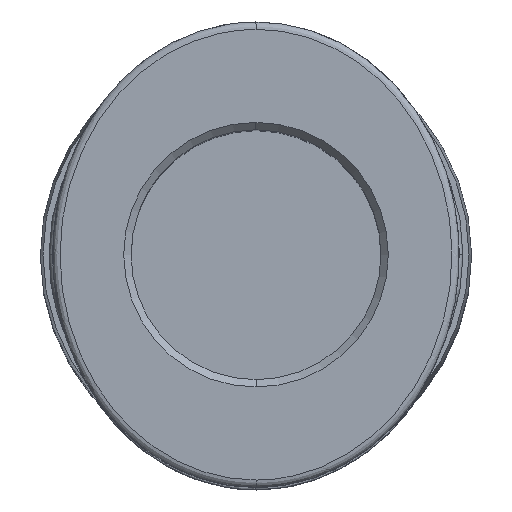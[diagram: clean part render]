
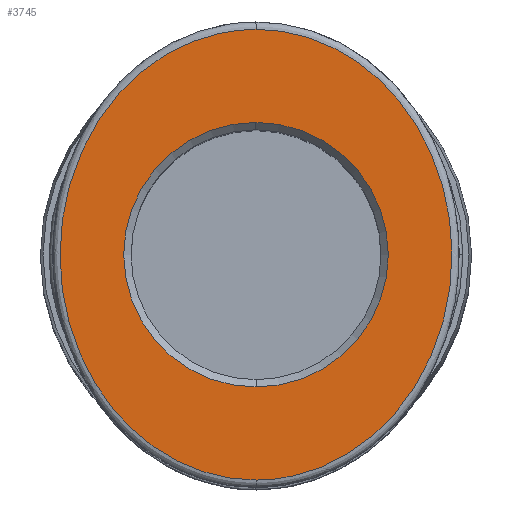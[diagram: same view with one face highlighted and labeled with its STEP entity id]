
A CAD part, top view. The second image highlights one B-rep face of the part: STEP entity #3745.
In plain terms, the highlighted planar face has unit normal (0, 0, 1).
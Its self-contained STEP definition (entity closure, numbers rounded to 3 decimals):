
#912=CARTESIAN_POINT('',(0.,9.199,30.3));
#920=CARTESIAN_POINT('',(0.,9.199,30.3));
#921=CARTESIAN_POINT('',(0.419,9.202,30.3));
#922=CARTESIAN_POINT('',(1.258,9.124,30.3));
#923=CARTESIAN_POINT('',(2.544,8.76,30.3));
#924=CARTESIAN_POINT('',(3.769,8.158,30.3));
#925=CARTESIAN_POINT('',(4.898,7.324,30.3));
#926=CARTESIAN_POINT('',(5.82,6.366,30.3));
#927=CARTESIAN_POINT('',(6.666,5.165,30.3));
#928=CARTESIAN_POINT('',(7.361,3.727,30.3));
#929=CARTESIAN_POINT('',(7.82,2.16,30.3));
#930=CARTESIAN_POINT('',(8.03,0.561,30.3));
#931=CARTESIAN_POINT('',(7.981,-1.154,30.3));
#932=CARTESIAN_POINT('',(7.677,-2.786,30.3));
#933=CARTESIAN_POINT('',(7.032,-4.524,30.3));
#934=CARTESIAN_POINT('',(6.133,-5.983,30.3));
#935=CARTESIAN_POINT('',(5.111,-7.137,30.3));
#936=CARTESIAN_POINT('',(3.911,-8.084,30.3));
#937=CARTESIAN_POINT('',(2.628,-8.737,30.3));
#938=CARTESIAN_POINT('',(1.295,-9.118,30.3));
#939=CARTESIAN_POINT('',(0.434,-9.202,30.3));
#940=CARTESIAN_POINT('',(0.005,-9.2,30.3));
#942=CARTESIAN_POINT('',(0.005,-9.2,30.3));
#943=CARTESIAN_POINT('',(-0.427,-9.201,30.3));
#944=CARTESIAN_POINT('',(-1.283,-9.121,30.3));
#945=CARTESIAN_POINT('',(-2.575,-8.755,30.3));
#946=CARTESIAN_POINT('',(-3.789,-8.149,30.3));
#947=CARTESIAN_POINT('',(-4.911,-7.311,30.3));
#948=CARTESIAN_POINT('',(-5.838,-6.343,30.3));
#949=CARTESIAN_POINT('',(-6.684,-5.138,30.3));
#950=CARTESIAN_POINT('',(-7.373,-3.695,30.3));
#951=CARTESIAN_POINT('',(-7.829,-2.109,30.3));
#952=CARTESIAN_POINT('',(-8.034,-0.492,
30.3));
#953=CARTESIAN_POINT('',(-7.972,1.227,30.3));
#954=CARTESIAN_POINT('',(-7.657,2.857,30.3));
#955=CARTESIAN_POINT('',(-6.997,4.59,30.3));
#956=CARTESIAN_POINT('',(-6.099,6.026,30.3));
#957=CARTESIAN_POINT('',(-5.093,7.155,30.3));
#958=CARTESIAN_POINT('',(-3.899,8.091,30.3));
#959=CARTESIAN_POINT('',(-2.628,8.732,30.3));
#960=CARTESIAN_POINT('',(-1.309,9.114,30.3));
#961=CARTESIAN_POINT('',(-0.437,9.199,30.3));
#962=CARTESIAN_POINT('',(0.,9.199,30.3));
#964=CARTESIAN_POINT('',(0.,0.,30.3));
#965=DIRECTION('',(0.,0.,1.));
#966=DIRECTION('',(0.001,-1.,0.));
#967=AXIS2_PLACEMENT_3D('',#964,#965,#966);
#969=CARTESIAN_POINT('',(0.,0.,30.3));
#970=DIRECTION('',(0.,0.,1.));
#971=DIRECTION('',(-0.001,1.,0.));
#972=AXIS2_PLACEMENT_3D('',#969,#970,#971);
#1133=VERTEX_POINT('',#912);
#1134=VERTEX_POINT('',#942);
#1135=CARTESIAN_POINT('',(0.003,-5.4,30.3));
#1136=CARTESIAN_POINT('',(-0.003,5.4,30.3));
#1137=VERTEX_POINT('',#1135);
#1138=VERTEX_POINT('',#1136);
#3730=CARTESIAN_POINT('',(0.006,-9.5,30.3));
#3731=DIRECTION('',(0.,0.,-1.));
#3732=DIRECTION('',(1.,0.001,0.));
#3733=AXIS2_PLACEMENT_3D('',#3730,#3731,#3732);
#3734=PLANE('',#3733);
#3735=ORIENTED_EDGE('',*,*,#3724,.T.);
#3736=ORIENTED_EDGE('',*,*,#3519,.T.);
#3737=EDGE_LOOP('',(#3735,#3736));
#3738=FACE_OUTER_BOUND('',#3737,.F.);
#3740=ORIENTED_EDGE('',*,*,#3739,.T.);
#3742=ORIENTED_EDGE('',*,*,#3741,.T.);
#3743=EDGE_LOOP('',(#3740,#3742));
#3744=FACE_BOUND('',#3743,.F.);
#3745=ADVANCED_FACE('',(#3738,#3744),#3734,.F.);
#941=B_SPLINE_CURVE_WITH_KNOTS('',3,(#920,#921,#922,#923,#924,#925,#926,#927,
#928,#929,#930,#931,#932,#933,#934,#935,#936,#937,#938,#939,#940),.UNSPECIFIED.,
.F.,.F.,(4,1,1,1,1,1,1,1,1,1,1,1,1,1,1,1,1,1,4),(0.,0.056,
0.111,0.167,0.222,0.278,
0.333,0.389,0.444,0.5,0.556,
0.611,0.667,0.722,0.778,
0.833,0.889,0.944,1.),.UNSPECIFIED.);
#963=B_SPLINE_CURVE_WITH_KNOTS('',3,(#942,#943,#944,#945,#946,#947,#948,#949,
#950,#951,#952,#953,#954,#955,#956,#957,#958,#959,#960,#961,#962),.UNSPECIFIED.,
.F.,.F.,(4,1,1,1,1,1,1,1,1,1,1,1,1,1,1,1,1,1,4),(0.,0.056,
0.111,0.167,0.222,0.278,
0.333,0.389,0.444,0.5,0.556,
0.611,0.667,0.722,0.778,
0.833,0.889,0.944,1.),.UNSPECIFIED.);
#968=CIRCLE('',#967,5.4);
#973=CIRCLE('',#972,5.4);
#3519=EDGE_CURVE('',#1134,#1133,#963,.T.);
#3724=EDGE_CURVE('',#1133,#1134,#941,.T.);
#3739=EDGE_CURVE('',#1137,#1138,#968,.T.);
#3741=EDGE_CURVE('',#1138,#1137,#973,.T.);
